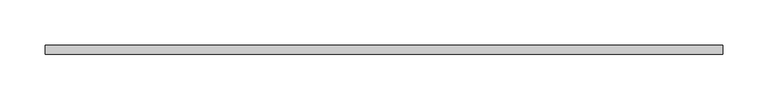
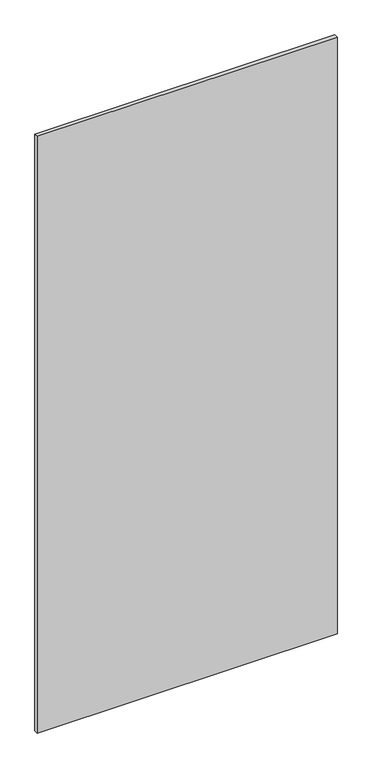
"""IFC4 building model written with IfcOpenShell, lengths in millimetres: plate geometry, Panel Flex Glassline_10mm : Panel Flex Glassline_10mm."""

from ifc_helpers import new_model, si_unit, origin, origin_with_axes, place, context, project, spatial, polyline, outline, extrude, source, transform, mapped, element, save


def plate_d9877c03(model_context):
    return source(origin(), model_context, "Body", "SweptSolid", [
        extrude(outline(polyline([(373.4729858, 12.4), (373.4729858, 2.4), (-373.4729858, 2.4), (-373.4729858, 12.4), (373.4729858, 12.4)])), origin_with_axes(), (0.0, 0.0, 1.0), 1571.3454707),
    ])


if __name__ == "__main__":
    model = new_model("IFC4")
    model_context = context("Model", 3, world=origin())
    ifc_project = project(units=[si_unit("LENGTHUNIT", "METRE", prefix="MILLI")], contexts=[model_context])
    site = spatial("IfcSite", under=ifc_project)
    building = spatial("IfcBuilding", under=site)
    placement = place(None, origin())
    plate_shape = plate_d9877c03(model_context)
    element("IfcPlate", 1, ObjectType="Panel Flex Glassline_10mm : Panel Flex Glassline_10mm", at=placement, inside=building, context=model_context, shape_type="MappedRepresentation", body=[
        mapped(plate_shape, transform((0.0, 0.0, 0.0), x_axis=(1.0, 0.0, 0.0), y_axis=(0.0, 1.0, 0.0), z_axis=(0.0, 0.0, 1.0))),
    ])
    save(model, "model.ifc")
